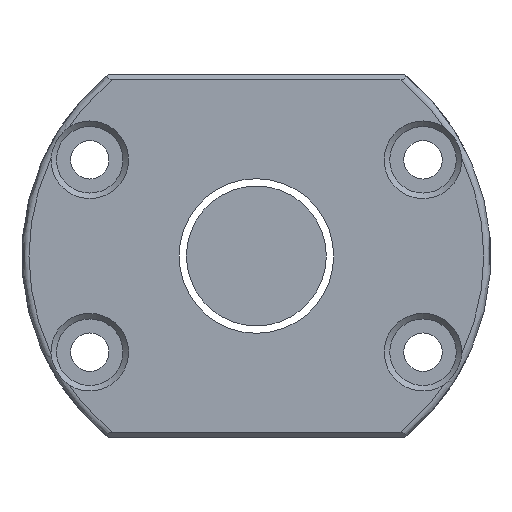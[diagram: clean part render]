
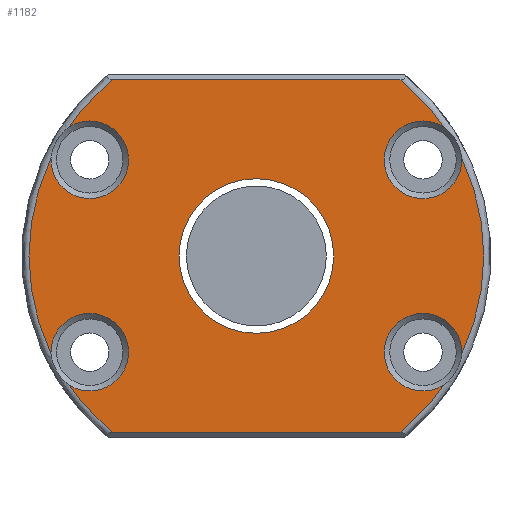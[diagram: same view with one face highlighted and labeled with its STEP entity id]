
A CAD part, left-side view. The second image highlights one B-rep face of the part: STEP entity #1182.
In plain terms, the highlighted planar face has unit normal (-1, 0, 0).
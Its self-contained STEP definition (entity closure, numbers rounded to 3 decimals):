
#3 = EDGE_CURVE ( 'NONE', #2635, #1545, #1192, .T. ) ;
#7 = AXIS2_PLACEMENT_3D ( 'NONE', #1805, #1319, #2810 ) ;
#23 = EDGE_CURVE ( 'NONE', #401, #3186, #1778, .T. ) ;
#50 = VERTEX_POINT ( 'NONE', #1905 ) ;
#85 = EDGE_CURVE ( 'NONE', #3186, #2374, #1022, .T. ) ;
#87 = EDGE_CURVE ( 'NONE', #1121, #663, #1667, .T. ) ;
#176 = DIRECTION ( 'NONE',  ( -1., 0., 0. ) ) ;
#183 = CIRCLE ( 'NONE', #1026, 5.55 ) ;
#195 = DIRECTION ( 'NONE',  ( 1., 0., 0. ) ) ;
#213 = VERTEX_POINT ( 'NONE', #3006 ) ;
#229 = VECTOR ( 'NONE', #1249, 1000. ) ;
#230 = DIRECTION ( 'NONE',  ( -1., 0., 0. ) ) ;
#243 = DIRECTION ( 'NONE',  ( 0., 0., 1. ) ) ;
#290 = ORIENTED_EDGE ( 'NONE', *, *, #23, .T. ) ;
#331 = EDGE_CURVE ( 'NONE', #2535, #1763, #2991, .T. ) ;
#344 = CIRCLE ( 'NONE', #3148, 5.55 ) ;
#367 = EDGE_CURVE ( 'NONE', #50, #1121, #450, .T. ) ;
#391 = PLANE ( 'NONE',  #1246 ) ;
#401 = VERTEX_POINT ( 'NONE', #1999 ) ;
#408 = CARTESIAN_POINT ( 'NONE',  ( -57., 29.363, -13.931 ) ) ;
#411 = DIRECTION ( 'NONE',  ( 0., 0., 1. ) ) ;
#446 = ORIENTED_EDGE ( 'NONE', *, *, #331, .T. ) ;
#450 = CIRCLE ( 'NONE', #1615, 32.5 ) ;
#469 = DIRECTION ( 'NONE',  ( -1., 0., 0. ) ) ;
#498 = CARTESIAN_POINT ( 'NONE',  ( -57., 19.5, 25.2 ) ) ;
#531 = EDGE_CURVE ( 'NONE', #2210, #2635, #1327, .T. ) ;
#593 = CARTESIAN_POINT ( 'NONE',  ( -57., -26.746, 18.463 ) ) ;
#633 = AXIS2_PLACEMENT_3D ( 'NONE', #2520, #2755, #243 ) ;
#663 = VERTEX_POINT ( 'NONE', #593 ) ;
#772 = DIRECTION ( 'NONE',  ( 1., 0., 0. ) ) ;
#824 = CARTESIAN_POINT ( 'NONE',  ( -57., -20.523, -25.2 ) ) ;
#830 = CARTESIAN_POINT ( 'NONE',  ( -57., -19.5, -25.2 ) ) ;
#871 = FACE_OUTER_BOUND ( 'NONE', #2858, .T. ) ;
#925 = ORIENTED_EDGE ( 'NONE', *, *, #959, .T. ) ;
#937 = DIRECTION ( 'NONE',  ( -1., 0., 0. ) ) ;
#947 = DIRECTION ( 'NONE',  ( 1., 0., 0. ) ) ;
#948 = ORIENTED_EDGE ( 'NONE', *, *, #2519, .T. ) ;
#959 = EDGE_CURVE ( 'NONE', #2374, #2774, #183, .T. ) ;
#1022 = CIRCLE ( 'NONE', #2513, 32.5 ) ;
#1026 = AXIS2_PLACEMENT_3D ( 'NONE', #2333, #772, #1809 ) ;
#1034 = ORIENTED_EDGE ( 'NONE', *, *, #2865, .T. ) ;
#1067 = DIRECTION ( 'NONE',  ( 1., 0., 0. ) ) ;
#1087 = ORIENTED_EDGE ( 'NONE', *, *, #531, .T. ) ;
#1121 = VERTEX_POINT ( 'NONE', #2001 ) ;
#1133 = VECTOR ( 'NONE', #2551, 1000. ) ;
#1182 = ADVANCED_FACE ( 'NONE', ( #871, #2746 ), #391, .T. ) ;
#1191 = ORIENTED_EDGE ( 'NONE', *, *, #1691, .T. ) ;
#1192 = CIRCLE ( 'NONE', #3046, 32.5 ) ;
#1246 = AXIS2_PLACEMENT_3D ( 'NONE', #1406, #469, #1484 ) ;
#1249 = DIRECTION ( 'NONE',  ( 0., 1., 0. ) ) ;
#1293 = AXIS2_PLACEMENT_3D ( 'NONE', #1690, #195, #2684 ) ;
#1319 = DIRECTION ( 'NONE',  ( -1., 0., 0. ) ) ;
#1327 = LINE ( 'NONE', #830, #1133 ) ;
#1347 = ORIENTED_EDGE ( 'NONE', *, *, #1959, .T. ) ;
#1381 = CARTESIAN_POINT ( 'NONE',  ( -57., 20.523, -25.2 ) ) ;
#1386 = CIRCLE ( 'NONE', #1755, 32.5 ) ;
#1406 = CARTESIAN_POINT ( 'NONE',  ( -57., 33.5, 0. ) ) ;
#1429 = EDGE_CURVE ( 'NONE', #1545, #50, #344, .T. ) ;
#1443 = CIRCLE ( 'NONE', #7, 32.5 ) ;
#1484 = DIRECTION ( 'NONE',  ( 0., 0., 1. ) ) ;
#1545 = VERTEX_POINT ( 'NONE', #2708 ) ;
#1615 = AXIS2_PLACEMENT_3D ( 'NONE', #2260, #230, #2288 ) ;
#1650 = AXIS2_PLACEMENT_3D ( 'NONE', #3077, #1067, #1836 ) ;
#1667 = CIRCLE ( 'NONE', #1293, 5.55 ) ;
#1675 = CARTESIAN_POINT ( 'NONE',  ( -57., 0., 0. ) ) ;
#1690 = CARTESIAN_POINT ( 'NONE',  ( -57., -23.816, 13.75 ) ) ;
#1691 = EDGE_CURVE ( 'NONE', #2774, #2210, #2973, .T. ) ;
#1707 = DIRECTION ( 'NONE',  ( 0., 0., 1. ) ) ;
#1755 = AXIS2_PLACEMENT_3D ( 'NONE', #3192, #937, #3158 ) ;
#1763 = VERTEX_POINT ( 'NONE', #2597 ) ;
#1778 = CIRCLE ( 'NONE', #2670, 5.55 ) ;
#1805 = CARTESIAN_POINT ( 'NONE',  ( -57., 0., 0. ) ) ;
#1809 = DIRECTION ( 'NONE',  ( 0., 0., 1. ) ) ;
#1836 = DIRECTION ( 'NONE',  ( 0., 0., -1. ) ) ;
#1905 = CARTESIAN_POINT ( 'NONE',  ( -57., -29.363, -13.931 ) ) ;
#1948 = ORIENTED_EDGE ( 'NONE', *, *, #85, .T. ) ;
#1959 = EDGE_CURVE ( 'NONE', #1763, #401, #1386, .T. ) ;
#1999 = CARTESIAN_POINT ( 'NONE',  ( -57., 26.746, 18.463 ) ) ;
#2001 = CARTESIAN_POINT ( 'NONE',  ( -57., -29.363, 13.931 ) ) ;
#2059 = CARTESIAN_POINT ( 'NONE',  ( -57., -20.523, 25.2 ) ) ;
#2155 = ORIENTED_EDGE ( 'NONE', *, *, #3, .T. ) ;
#2210 = VERTEX_POINT ( 'NONE', #1381 ) ;
#2239 = ORIENTED_EDGE ( 'NONE', *, *, #367, .T. ) ;
#2260 = CARTESIAN_POINT ( 'NONE',  ( -57., 0., 0. ) ) ;
#2288 = DIRECTION ( 'NONE',  ( 0., 0., 1. ) ) ;
#2333 = CARTESIAN_POINT ( 'NONE',  ( -57., 23.816, -13.75 ) ) ;
#2342 = ORIENTED_EDGE ( 'NONE', *, *, #87, .T. ) ;
#2374 = VERTEX_POINT ( 'NONE', #408 ) ;
#2414 = DIRECTION ( 'NONE',  ( 0., 0., 1. ) ) ;
#2450 = DIRECTION ( 'NONE',  ( 1., 0., 0. ) ) ;
#2513 = AXIS2_PLACEMENT_3D ( 'NONE', #1675, #176, #411 ) ;
#2519 = EDGE_CURVE ( 'NONE', #663, #2535, #1443, .T. ) ;
#2520 = CARTESIAN_POINT ( 'NONE',  ( -57., 0., 0. ) ) ;
#2535 = VERTEX_POINT ( 'NONE', #2059 ) ;
#2551 = DIRECTION ( 'NONE',  ( 0., -1., 0. ) ) ;
#2597 = CARTESIAN_POINT ( 'NONE',  ( -57., 20.523, 25.2 ) ) ;
#2613 = CARTESIAN_POINT ( 'NONE',  ( -57., 26.746, -18.463 ) ) ;
#2635 = VERTEX_POINT ( 'NONE', #824 ) ;
#2670 = AXIS2_PLACEMENT_3D ( 'NONE', #3162, #2450, #2414 ) ;
#2684 = DIRECTION ( 'NONE',  ( 0., 0., 1. ) ) ;
#2708 = CARTESIAN_POINT ( 'NONE',  ( -57., -26.746, -18.463 ) ) ;
#2746 = FACE_BOUND ( 'NONE', #2802, .T. ) ;
#2755 = DIRECTION ( 'NONE',  ( -1., 0., 0. ) ) ;
#2774 = VERTEX_POINT ( 'NONE', #2613 ) ;
#2802 = EDGE_LOOP ( 'NONE', ( #1034 ) ) ;
#2810 = DIRECTION ( 'NONE',  ( 0., 0., 1. ) ) ;
#2858 = EDGE_LOOP ( 'NONE', ( #948, #446, #1347, #290, #1948, #925, #1191, #1087, #2155, #3103, #2239, #2342 ) ) ;
#2865 = EDGE_CURVE ( 'NONE', #213, #213, #3078, .T. ) ;
#2935 = DIRECTION ( 'NONE',  ( -1., 0., 0. ) ) ;
#2970 = DIRECTION ( 'NONE',  ( 0., 0., 1. ) ) ;
#2973 = CIRCLE ( 'NONE', #633, 32.5 ) ;
#2991 = LINE ( 'NONE', #498, #229 ) ;
#3006 = CARTESIAN_POINT ( 'NONE',  ( -57., 0., -11.05 ) ) ;
#3046 = AXIS2_PLACEMENT_3D ( 'NONE', #3230, #2935, #1707 ) ;
#3077 = CARTESIAN_POINT ( 'NONE',  ( -57., 0., 0. ) ) ;
#3078 = CIRCLE ( 'NONE', #1650, 11.05 ) ;
#3089 = CARTESIAN_POINT ( 'NONE',  ( -57., 29.363, 13.931 ) ) ;
#3103 = ORIENTED_EDGE ( 'NONE', *, *, #1429, .T. ) ;
#3148 = AXIS2_PLACEMENT_3D ( 'NONE', #3203, #947, #2970 ) ;
#3158 = DIRECTION ( 'NONE',  ( 0., 0., 1. ) ) ;
#3162 = CARTESIAN_POINT ( 'NONE',  ( -57., 23.816, 13.75 ) ) ;
#3186 = VERTEX_POINT ( 'NONE', #3089 ) ;
#3192 = CARTESIAN_POINT ( 'NONE',  ( -57., 0., 0. ) ) ;
#3203 = CARTESIAN_POINT ( 'NONE',  ( -57., -23.816, -13.75 ) ) ;
#3230 = CARTESIAN_POINT ( 'NONE',  ( -57., 0., 0. ) ) ;
